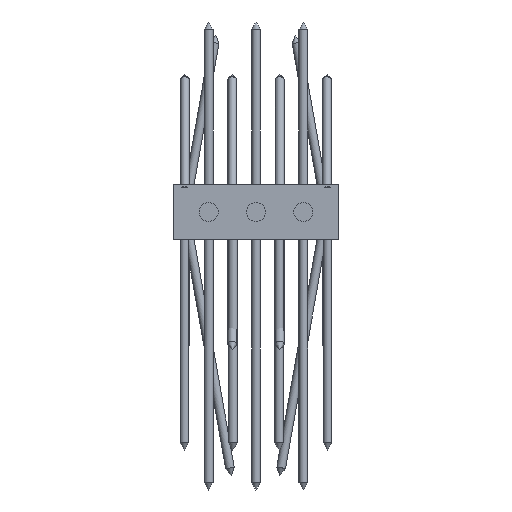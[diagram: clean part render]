
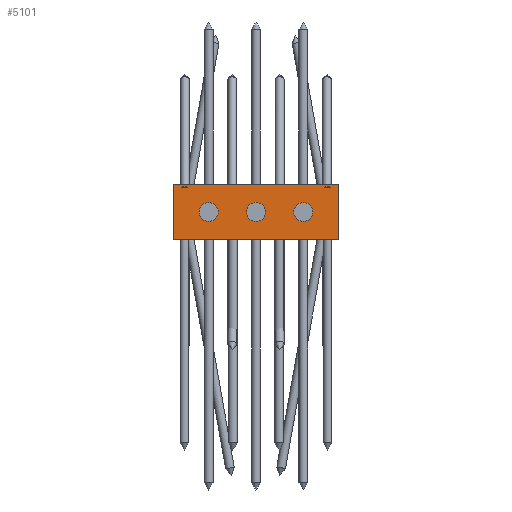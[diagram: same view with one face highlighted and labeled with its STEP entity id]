
A CAD part, front view. The second image highlights one B-rep face of the part: STEP entity #5101.
In plain terms, the highlighted planar face has unit normal (0, -1, 0) as drawn and (0, 0, 1) by its records, which use the part's own axes.
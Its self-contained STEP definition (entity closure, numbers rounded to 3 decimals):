
#323=LINE('',#9348,#521);
#331=LINE('',#9372,#529);
#332=LINE('',#9380,#530);
#333=LINE('',#9381,#531);
#521=VECTOR('',#7631,1000.);
#529=VECTOR('',#7651,1000.);
#530=VECTOR('',#7660,1000.);
#531=VECTOR('',#7661,1000.);
#1122=PLANE('',#6107);
#2216=ORIENTED_EDGE('',*,*,#2774,.F.);
#2217=ORIENTED_EDGE('',*,*,#2775,.F.);
#2218=ORIENTED_EDGE('',*,*,#2776,.F.);
#2219=ORIENTED_EDGE('',*,*,#2777,.F.);
#2220=ORIENTED_EDGE('',*,*,#2773,.F.);
#2221=ORIENTED_EDGE('',*,*,#2778,.T.);
#2222=ORIENTED_EDGE('',*,*,#2761,.T.);
#2761=EDGE_CURVE('',#3208,#3206,#323,.T.);
#2773=EDGE_CURVE('',#3217,#3216,#331,.T.);
#2774=EDGE_CURVE('',#3218,#3218,#3418,.T.);
#2775=EDGE_CURVE('',#3219,#3219,#3419,.T.);
#2776=EDGE_CURVE('',#3220,#3220,#3420,.T.);
#2777=EDGE_CURVE('',#3216,#3206,#332,.T.);
#2778=EDGE_CURVE('',#3217,#3208,#333,.T.);
#3206=VERTEX_POINT('',#9346);
#3208=VERTEX_POINT('',#9349);
#3216=VERTEX_POINT('',#9369);
#3217=VERTEX_POINT('',#9371);
#3218=VERTEX_POINT('',#9375);
#3219=VERTEX_POINT('',#9377);
#3220=VERTEX_POINT('',#9379);
#3418=CIRCLE('',#6108,8.647);
#3419=CIRCLE('',#6109,8.647);
#3420=CIRCLE('',#6110,8.647);
#4048=EDGE_LOOP('',(#2216));
#4049=EDGE_LOOP('',(#2217));
#4050=EDGE_LOOP('',(#2218));
#4051=EDGE_LOOP('',(#2219,#2220,#2221,#2222));
#4708=FACE_BOUND('',#4048,.T.);
#4709=FACE_BOUND('',#4049,.T.);
#4710=FACE_BOUND('',#4050,.T.);
#4711=FACE_BOUND('',#4051,.T.);
#5101=ADVANCED_FACE('',(#4708,#4709,#4710,#4711),#1122,.T.);
#6107=AXIS2_PLACEMENT_3D('',#9373,#7652,#7653);
#6108=AXIS2_PLACEMENT_3D('',#9374,#7654,#7655);
#6109=AXIS2_PLACEMENT_3D('',#9376,#7656,#7657);
#6110=AXIS2_PLACEMENT_3D('',#9378,#7658,#7659);
#7631=DIRECTION('',(0.,-1.,0.));
#7651=DIRECTION('',(0.,-1.,0.));
#7652=DIRECTION('',(0.,0.,1.));
#7653=DIRECTION('',(1.,0.,0.));
#7654=DIRECTION('',(0.,0.,1.));
#7655=DIRECTION('',(1.,0.,0.));
#7656=DIRECTION('',(0.,0.,1.));
#7657=DIRECTION('',(1.,0.,0.));
#7658=DIRECTION('',(0.,0.,1.));
#7659=DIRECTION('',(1.,0.,0.));
#7660=DIRECTION('',(-1.,0.,0.));
#7661=DIRECTION('',(-1.,0.,0.));
#9346=CARTESIAN_POINT('',(0.,0.,50.));
#9348=CARTESIAN_POINT('',(0.,150.,50.));
#9349=CARTESIAN_POINT('',(0.,150.,50.));
#9369=CARTESIAN_POINT('',(50.,0.,50.));
#9371=CARTESIAN_POINT('',(50.,150.,50.));
#9372=CARTESIAN_POINT('',(50.,150.,50.));
#9373=CARTESIAN_POINT('',(50.,150.,50.));
#9374=CARTESIAN_POINT('',(25.,32.,50.));
#9375=CARTESIAN_POINT('',(33.647,32.,50.));
#9376=CARTESIAN_POINT('',(25.,75.,50.));
#9377=CARTESIAN_POINT('',(33.647,75.,50.));
#9378=CARTESIAN_POINT('',(25.,118.,50.));
#9379=CARTESIAN_POINT('',(33.647,118.,50.));
#9380=CARTESIAN_POINT('',(50.,0.,50.));
#9381=CARTESIAN_POINT('',(50.,150.,50.));
